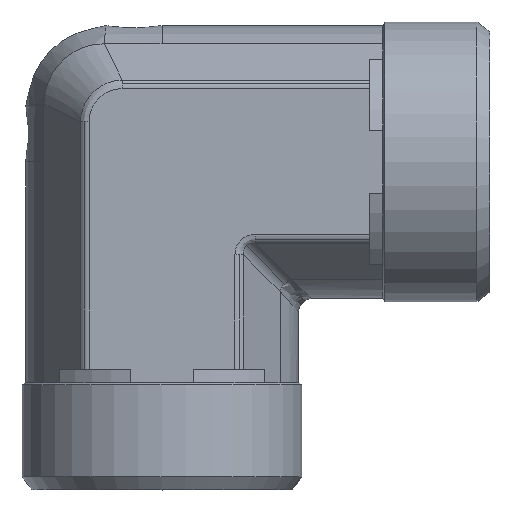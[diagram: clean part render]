
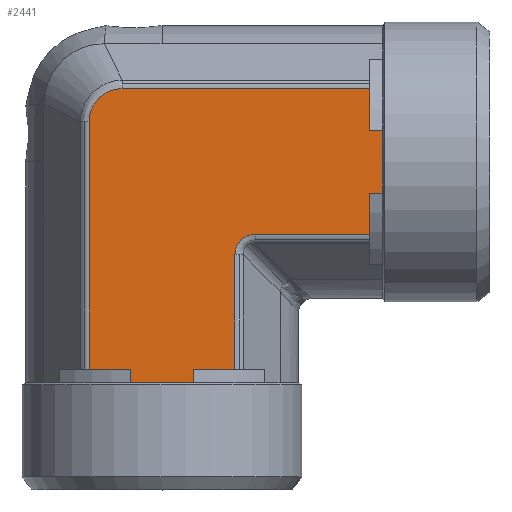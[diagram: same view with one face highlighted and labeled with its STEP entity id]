
A CAD part, top view. The second image highlights one B-rep face of the part: STEP entity #2441.
In plain terms, the highlighted planar face has unit normal (0, 0, 1) as drawn and (0, -1, 0) by its records, which use the part's own axes.
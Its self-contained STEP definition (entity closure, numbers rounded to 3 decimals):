
#361=CARTESIAN_POINT('',(9.429,-20.375,10.897));
#362=VERTEX_POINT('',#361);
#370=CARTESIAN_POINT('',(26.5,-20.375,10.897));
#371=VERTEX_POINT('',#370);
#372=CARTESIAN_POINT('',(9.429,-20.375,10.897));
#373=DIRECTION('',(1.0,0.0,0.0));
#374=VECTOR('',#373,17.071);
#375=LINE('',#372,#374);
#376=EDGE_CURVE('',#362,#371,#375,.T.);
#485=CARTESIAN_POINT('',(-15.397,-20.375,-5.976));
#486=VERTEX_POINT('',#485);
#494=CARTESIAN_POINT('',(-15.397,-20.375,31.));
#495=VERTEX_POINT('',#494);
#496=CARTESIAN_POINT('',(-15.397,-20.375,-5.976));
#497=DIRECTION('',(0.0,0.0,1.0));
#498=VECTOR('',#497,36.976);
#499=LINE('',#496,#498);
#500=EDGE_CURVE('',#486,#495,#499,.T.);
#692=CARTESIAN_POINT('',(28.5,-20.375,0.));
#693=VERTEX_POINT('',#692);
#1887=CARTESIAN_POINT('',(6.397,-20.375,31.));
#1888=VERTEX_POINT('',#1887);
#1889=CARTESIAN_POINT('',(0.2,-20.375,31.));
#1890=VERTEX_POINT('',#1889);
#1891=CARTESIAN_POINT('',(6.397,-20.375,31.));
#1892=DIRECTION('',(-1.0,0.0,0.0));
#1893=VECTOR('',#1892,6.198);
#1894=LINE('',#1891,#1893);
#1895=EDGE_CURVE('',#1888,#1890,#1894,.T.);
#1946=CARTESIAN_POINT('',(-9.2,-20.375,31.));
#1947=VERTEX_POINT('',#1946);
#1948=CARTESIAN_POINT('',(-9.2,-20.375,31.));
#1949=DIRECTION('',(-1.0,0.0,0.0));
#1950=VECTOR('',#1949,6.198);
#1951=LINE('',#1948,#1950);
#1952=EDGE_CURVE('',#1947,#495,#1951,.T.);
#2010=CARTESIAN_POINT('',(-9.2,-20.375,33.0));
#2011=VERTEX_POINT('',#2010);
#2012=CARTESIAN_POINT('',(-9.2,-20.375,33.0));
#2013=DIRECTION('',(0.0,0.0,-1.0));
#2014=VECTOR('',#2013,2.);
#2015=LINE('',#2012,#2014);
#2016=EDGE_CURVE('',#2011,#1947,#2015,.T.);
#2033=CARTESIAN_POINT('',(0.2,-20.375,33.0));
#2034=VERTEX_POINT('',#2033);
#2035=CARTESIAN_POINT('',(0.2,-20.375,31.));
#2036=DIRECTION('',(0.0,0.0,1.0));
#2037=VECTOR('',#2036,2.);
#2038=LINE('',#2035,#2037);
#2039=EDGE_CURVE('',#1890,#2034,#2038,.T.);
#2315=CARTESIAN_POINT('',(-4.5,-20.375,33.0));
#2316=VERTEX_POINT('',#2315);
#2317=CARTESIAN_POINT('',(-4.5,-20.375,33.0));
#2318=DIRECTION('',(-1.0,0.0,0.0));
#2319=VECTOR('',#2318,4.7);
#2320=LINE('',#2317,#2319);
#2321=EDGE_CURVE('',#2316,#2011,#2320,.T.);
#2339=CARTESIAN_POINT('',(-4.5,-20.375,-3.175));
#2340=DIRECTION('',(0.0,-1.0,0.0));
#2341=DIRECTION('',(0.0,0.0,-1.0));
#2342=AXIS2_PLACEMENT_3D('',#2339,#2340,#2341);
#2343=PLANE('',#2342);
#2344=ORIENTED_EDGE('',*,*,#2016,.T.);
#2345=ORIENTED_EDGE('',*,*,#1952,.T.);
#2346=ORIENTED_EDGE('',*,*,#500,.F.);
#2347=CARTESIAN_POINT('',(-10.476,-20.375,-10.897));
#2348=VERTEX_POINT('',#2347);
#2349=CARTESIAN_POINT('',(-15.397,-20.375,-5.976));
#2350=CARTESIAN_POINT('',(-15.397,-20.375,-6.296));
#2351=CARTESIAN_POINT('',(-15.365,-20.375,-6.619));
#2352=CARTESIAN_POINT('',(-15.2,-20.375,-7.443));
#2353=CARTESIAN_POINT('',(-15.019,-20.375,-7.929));
#2354=CARTESIAN_POINT('',(-14.359,-20.375,-9.1));
#2355=CARTESIAN_POINT('',(-13.773,-20.375,-9.713));
#2356=CARTESIAN_POINT('',(-12.293,-20.375,-10.637));
#2357=CARTESIAN_POINT('',(-11.385,-20.375,-10.897));
#2358=CARTESIAN_POINT('',(-10.476,-20.375,-10.897));
#2359=B_SPLINE_CURVE_WITH_KNOTS('',3,(#2349,#2350,#2351,#2352,#2353,#2354,#2355,#2356,#2357,#2358),.UNSPECIFIED.,.F.,.U.,(4,2,2,2,4),(-7.686,-6.725,-5.188,-2.729,0.0),.UNSPECIFIED.);
#2360=EDGE_CURVE('',#2348,#486,#2359,.F.);
#2361=ORIENTED_EDGE('',*,*,#2360,.F.);
#2362=CARTESIAN_POINT('',(26.5,-20.375,-10.897));
#2363=VERTEX_POINT('',#2362);
#2364=CARTESIAN_POINT('',(26.5,-20.375,-10.897));
#2365=DIRECTION('',(-1.0,0.0,0.0));
#2366=VECTOR('',#2365,36.976);
#2367=LINE('',#2364,#2366);
#2368=EDGE_CURVE('',#2363,#2348,#2367,.T.);
#2369=ORIENTED_EDGE('',*,*,#2368,.F.);
#2370=CARTESIAN_POINT('',(26.5,-20.375,-4.7));
#2371=VERTEX_POINT('',#2370);
#2372=CARTESIAN_POINT('',(26.5,-20.375,-10.897));
#2373=DIRECTION('',(0.0,0.0,1.0));
#2374=VECTOR('',#2373,6.198);
#2375=LINE('',#2372,#2374);
#2376=EDGE_CURVE('',#2363,#2371,#2375,.T.);
#2377=ORIENTED_EDGE('',*,*,#2376,.T.);
#2378=CARTESIAN_POINT('',(28.5,-20.375,-4.7));
#2379=VERTEX_POINT('',#2378);
#2380=CARTESIAN_POINT('',(26.5,-20.375,-4.7));
#2381=DIRECTION('',(1.0,0.0,0.0));
#2382=VECTOR('',#2381,2.);
#2383=LINE('',#2380,#2382);
#2384=EDGE_CURVE('',#2371,#2379,#2383,.T.);
#2385=ORIENTED_EDGE('',*,*,#2384,.T.);
#2386=CARTESIAN_POINT('',(28.5,-20.375,-4.7));
#2387=DIRECTION('',(0.0,0.0,1.0));
#2388=VECTOR('',#2387,4.7);
#2389=LINE('',#2386,#2388);
#2390=EDGE_CURVE('',#2379,#693,#2389,.T.);
#2391=ORIENTED_EDGE('',*,*,#2390,.T.);
#2392=CARTESIAN_POINT('',(28.5,-20.375,4.7));
#2393=VERTEX_POINT('',#2392);
#2394=CARTESIAN_POINT('',(28.5,-20.375,0.));
#2395=DIRECTION('',(0.0,0.0,1.0));
#2396=VECTOR('',#2395,4.7);
#2397=LINE('',#2394,#2396);
#2398=EDGE_CURVE('',#693,#2393,#2397,.T.);
#2399=ORIENTED_EDGE('',*,*,#2398,.T.);
#2400=CARTESIAN_POINT('',(26.5,-20.375,4.7));
#2401=VERTEX_POINT('',#2400);
#2402=CARTESIAN_POINT('',(28.5,-20.375,4.7));
#2403=DIRECTION('',(-1.0,0.0,0.0));
#2404=VECTOR('',#2403,2.);
#2405=LINE('',#2402,#2404);
#2406=EDGE_CURVE('',#2393,#2401,#2405,.T.);
#2407=ORIENTED_EDGE('',*,*,#2406,.T.);
#2408=CARTESIAN_POINT('',(26.5,-20.375,4.7));
#2409=DIRECTION('',(0.0,0.0,1.0));
#2410=VECTOR('',#2409,6.198);
#2411=LINE('',#2408,#2410);
#2412=EDGE_CURVE('',#2401,#371,#2411,.T.);
#2413=ORIENTED_EDGE('',*,*,#2412,.T.);
#2414=ORIENTED_EDGE('',*,*,#376,.F.);
#2415=CARTESIAN_POINT('',(6.397,-20.375,13.929));
#2416=VERTEX_POINT('',#2415);
#2417=CARTESIAN_POINT('',(10.439,-20.375,14.939));
#2418=DIRECTION('',(0.,-1.,0.));
#2419=DIRECTION('',(-0.707,0.,-0.707));
#2420=AXIS2_PLACEMENT_3D('',#2417,#2418,#2419);
#2421=ELLIPSE('',#2420,4.518,3.5);
#2422=EDGE_CURVE('',#2416,#362,#2421,.T.);
#2423=ORIENTED_EDGE('',*,*,#2422,.F.);
#2424=CARTESIAN_POINT('',(6.397,-20.375,31.));
#2425=DIRECTION('',(0.0,0.0,-1.0));
#2426=VECTOR('',#2425,17.071);
#2427=LINE('',#2424,#2426);
#2428=EDGE_CURVE('',#1888,#2416,#2427,.T.);
#2429=ORIENTED_EDGE('',*,*,#2428,.F.);
#2430=ORIENTED_EDGE('',*,*,#1895,.T.);
#2431=ORIENTED_EDGE('',*,*,#2039,.T.);
#2432=CARTESIAN_POINT('',(0.2,-20.375,33.0));
#2433=DIRECTION('',(-1.0,0.0,0.0));
#2434=VECTOR('',#2433,4.7);
#2435=LINE('',#2432,#2434);
#2436=EDGE_CURVE('',#2034,#2316,#2435,.T.);
#2437=ORIENTED_EDGE('',*,*,#2436,.T.);
#2438=ORIENTED_EDGE('',*,*,#2321,.T.);
#2439=EDGE_LOOP('',(#2344,#2345,#2346,#2361,#2369,#2377,#2385,#2391,#2399,#2407,#2413,#2414,#2423,#2429,#2430,#2431,#2437,#2438));
#2440=FACE_OUTER_BOUND('',#2439,.T.);
#2441=ADVANCED_FACE('',(#2440),#2343,.T.);
